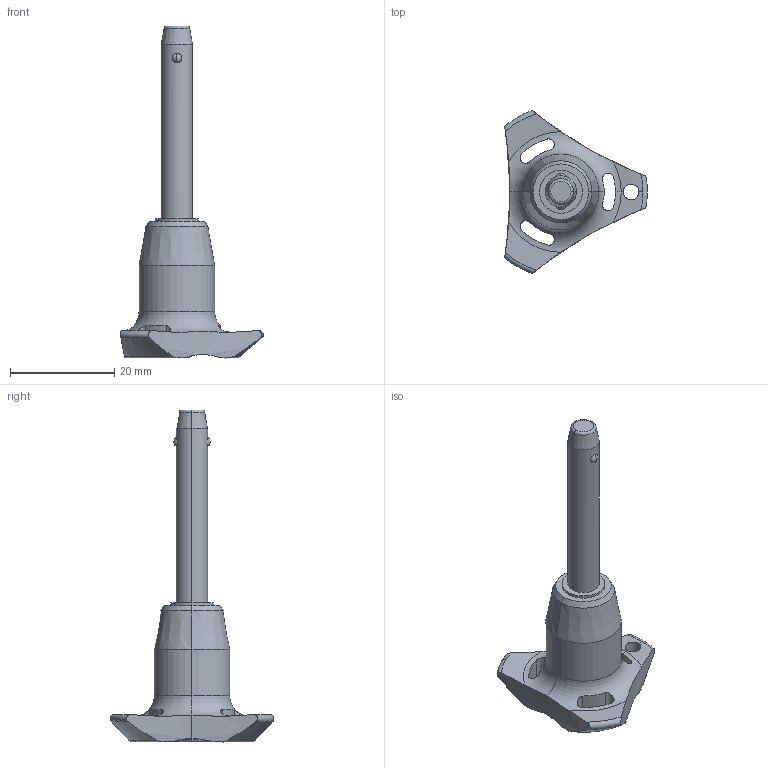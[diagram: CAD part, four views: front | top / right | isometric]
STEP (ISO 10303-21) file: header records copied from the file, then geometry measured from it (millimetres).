
FILE_DESCRIPTION (( 'STEP AP203' ), '1' );
FILE_NAME ('QR1734.M06-030-S.step', '2025-11-12T14:16:52', ( '' ), ( '' ), 'SwSTEP 2.0', 'SolidWorks 2019', '' );
FILE_SCHEMA (( 'CONFIG_CONTROL_DESIGN' ));
Length unit declared in the file: millimetre
Products named in the file (1): QR1734.M06-030-S
Bounding box: 27.4 x 31.31 x 63.7 mm (x, y, z)
Volume: 5814.3 mm3; surface area: 3118.3 mm2
Topology: 1 solids, 1 shells, 66 faces, 181 edges, 115 vertices
Faces by surface type: cylinder 30, cone 14, torus 12, sphere 6, plane 4
Entity records: 2709 total; most frequent: CARTESIAN_POINT 997, ORIENTED_EDGE 362, DIRECTION 332, EDGE_CURVE 181, AXIS2_PLACEMENT_3D 148, VERTEX_POINT 115, CIRCLE 81, EDGE_LOOP 72
